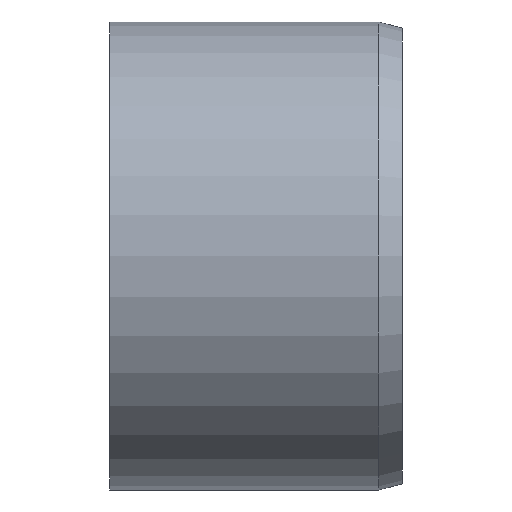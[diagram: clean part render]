
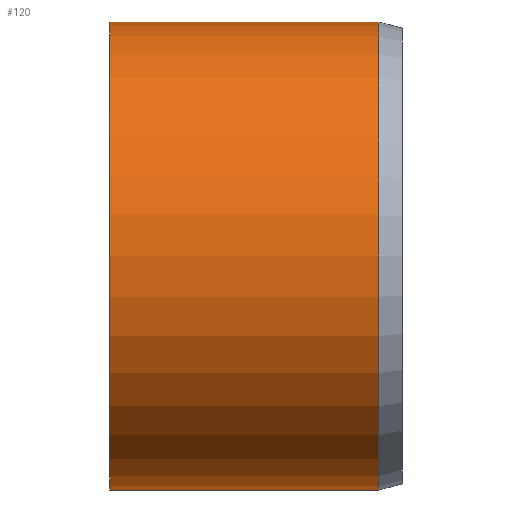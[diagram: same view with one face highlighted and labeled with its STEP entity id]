
A CAD part, front view. The second image highlights one B-rep face of the part: STEP entity #120.
In plain terms, the highlighted cylindrical face has radius 40 mm (diameter 80 mm), a full revolution.
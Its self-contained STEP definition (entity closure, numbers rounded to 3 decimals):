
#20=LINE('',#229,#23);
#23=VECTOR('',#197,40.);
#26=CYLINDRICAL_SURFACE('',#157,40.);
#32=FACE_OUTER_BOUND('',#41,.T.);
#41=EDGE_LOOP('',(#97,#98,#99,#100));
#49=CIRCLE('',#151,40.);
#53=CIRCLE('',#158,40.);
#59=VERTEX_POINT('',#217);
#62=VERTEX_POINT('',#227);
#70=EDGE_CURVE('',#59,#59,#49,.T.);
#74=EDGE_CURVE('',#62,#62,#53,.T.);
#75=EDGE_CURVE('',#62,#59,#20,.T.);
#97=ORIENTED_EDGE('',*,*,#74,.F.);
#98=ORIENTED_EDGE('',*,*,#75,.T.);
#99=ORIENTED_EDGE('',*,*,#70,.T.);
#100=ORIENTED_EDGE('',*,*,#75,.F.);
#120=ADVANCED_FACE('',(#32),#26,.T.);
#151=AXIS2_PLACEMENT_3D('',#218,#181,#182);
#157=AXIS2_PLACEMENT_3D('',#226,#193,#194);
#158=AXIS2_PLACEMENT_3D('',#228,#195,#196);
#181=DIRECTION('center_axis',(1.,0.,0.));
#182=DIRECTION('ref_axis',(0.,0.,-1.));
#193=DIRECTION('center_axis',(1.,0.,0.));
#194=DIRECTION('ref_axis',(0.,1.,0.));
#195=DIRECTION('center_axis',(1.,0.,0.));
#196=DIRECTION('ref_axis',(0.,0.,-1.));
#197=DIRECTION('',(-1.,0.,0.));
#217=CARTESIAN_POINT('',(0.,-40.,0.));
#218=CARTESIAN_POINT('Origin',(0.,0.,0.));
#226=CARTESIAN_POINT('Origin',(23.,0.,0.));
#227=CARTESIAN_POINT('',(46.,-40.,0.));
#228=CARTESIAN_POINT('Origin',(46.,0.,0.));
#229=CARTESIAN_POINT('',(23.,-40.,0.));
